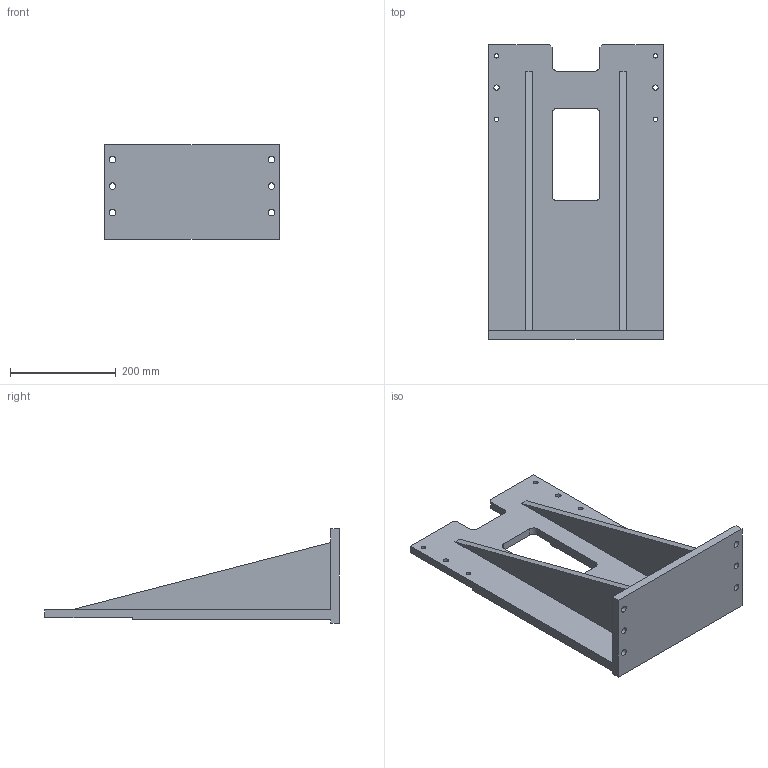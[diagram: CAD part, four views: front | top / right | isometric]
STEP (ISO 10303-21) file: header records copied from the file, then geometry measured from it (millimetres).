
FILE_DESCRIPTION(/* description */ ('DB4-RISER'),/* implementation_level */ '2;1');
FILE_NAME(/* name */ 'C:\Vault Workspace\CAD\Welker\Shot Pin\DBL40\S01896 DB4 Mounting Accessories\S01896E02\S01896E02-475.stp',/* time_stamp */ '2016-05-04T13:51:38-04:00',/* author */ ('klabrecque'),/* organization */ (''),/* preprocessor_version */ 'ST-DEVELOPER v15.2',/* originating_system */ 'Autodesk Inventor 2014',/* authorisation */ '');
FILE_SCHEMA (('AUTOMOTIVE_DESIGN { 1 0 10303 214 3 1 1 }'));
Length unit declared in the file: millimetre
Products named in the file (1): S01896E02-475
Bounding box: 330 x 556 x 177.8 mm (x, y, z)
Volume: 4538071.5 mm3; surface area: 604660.3 mm2
Topology: 1 solids, 1 shells, 47 faces, 150 edges, 104 vertices
Faces by surface type: plane 29, cylinder 18
Full cylindrical faces by diameter (mm): 8.376 x4, 10 x2, 12 x2, 12.5 x4
Entity records: 1628 total; most frequent: CARTESIAN_POINT 266, DIRECTION 258, ORIENTED_EDGE 252, EDGE_CURVE 126, VERTEX_POINT 92, LINE 90, VECTOR 90, EDGE_LOOP 84
